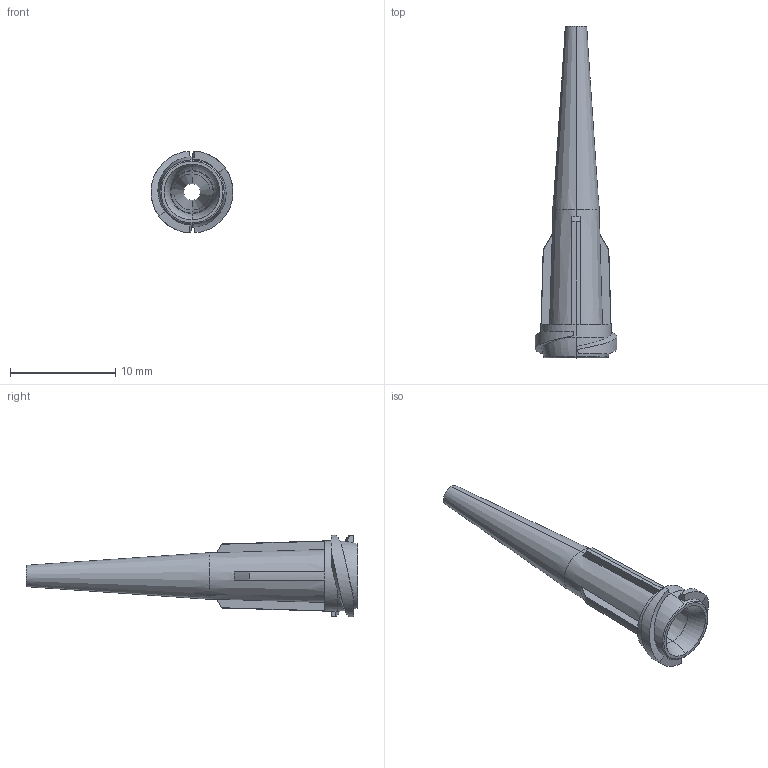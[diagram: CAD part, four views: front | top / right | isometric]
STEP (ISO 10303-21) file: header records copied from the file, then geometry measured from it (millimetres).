
FILE_DESCRIPTION (( 'STEP AP214' ), '1' );
FILE_NAME ('NORDSONEFD-7018048 TIP 14GA RTT 063 OL.STEP', '2019-01-10T10:51:11', ( '' ), ( '' ), 'SwSTEP 2.0', 'SolidWorks 2018', '' );
FILE_SCHEMA (( 'AUTOMOTIVE_DESIGN' ));
Length unit declared in the file: inch
Products named in the file (1): NORDSONEFD-7018048 TIP 14GA RTT 063 OL
Bounding box: 7.77 x 31.5 x 7.77 mm (x, y, z)
Volume: 221 mm3; surface area: 827.6 mm2
Topology: 1 solids, 1 shells, 58 faces, 144 edges, 88 vertices
Faces by surface type: plane 22, cone 14, bspline 12, torus 8, cylinder 2
Entity records: 2112 total; most frequent: CARTESIAN_POINT 801, ORIENTED_EDGE 288, DIRECTION 246, EDGE_CURVE 144, AXIS2_PLACEMENT_3D 103, VERTEX_POINT 88, EDGE_LOOP 60, FACE_OUTER_BOUND 58
